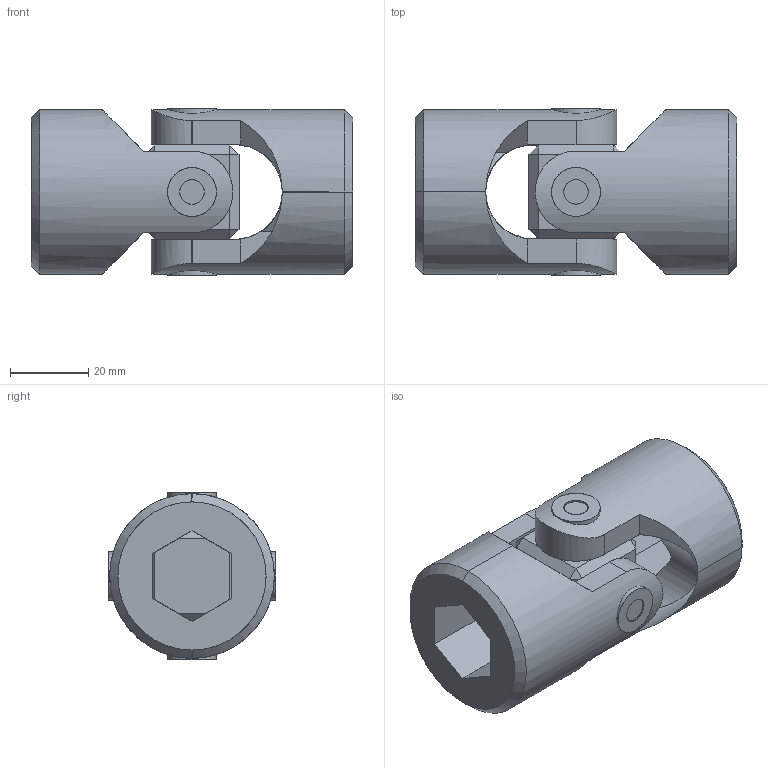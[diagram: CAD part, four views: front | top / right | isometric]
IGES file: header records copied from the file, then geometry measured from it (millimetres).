
Start section: SolidWorks IGES file using analytic representation for surfaces
Global section: file name: C:\Users\IanO\Desktop\R3690_v2\R3690_v2_20231020_IGES\R3690.020-HB.igs; native system: SolidWorks 2019; preprocessor: SolidWorks 2019; author: IanO; date: 231020.152749; units: millimetre
Bounding box: 82 x 42.84 x 42.84 mm (x, y, z)
Surface area: 26195.4 mm2 (no closed solid volume)
Topology: 0 solids, 0 shells, 112 faces, 2192 edges, 2192 vertices
Faces by surface type: bspline 68, revolution 44
